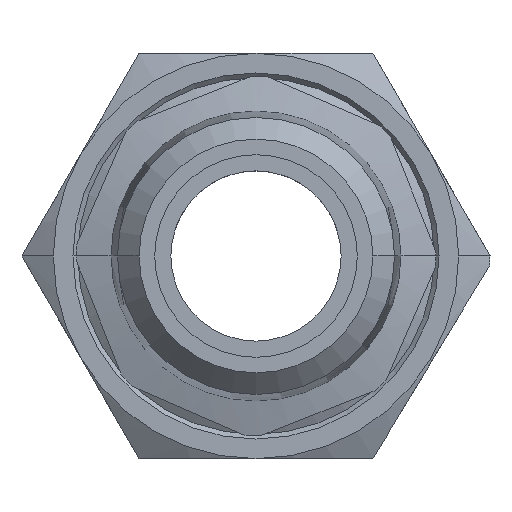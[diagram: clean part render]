
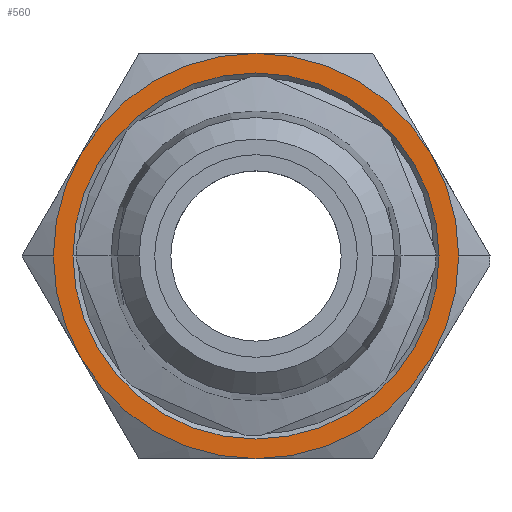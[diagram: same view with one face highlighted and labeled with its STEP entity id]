
A CAD part, left-side view. The second image highlights one B-rep face of the part: STEP entity #560.
In plain terms, the highlighted planar face has unit normal (-1, 0, 0) as drawn and (1, 0, 0) by its records, which use the part's own axes.
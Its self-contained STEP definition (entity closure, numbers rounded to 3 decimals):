
#10=CARTESIAN_POINT('',(221.708,28.002,
0.));
#20=DIRECTION('',(1.,0.,0.));
#30=DIRECTION('',(0.,-1.,0.));
#40=AXIS2_PLACEMENT_3D('',#10,#20,#30);
#50=PLANE('',#40);
#60=CARTESIAN_POINT('',(221.708,13.727,
0.));
#70=DIRECTION('',(-1.,0.,0.));
#80=DIRECTION('',(0.,1.,0.));
#90=AXIS2_PLACEMENT_3D('',#60,#70,#80);
#100=CIRCLE('',#90,13.55);
#110=CARTESIAN_POINT('',(221.708,27.277,
0.));
#120=VERTEX_POINT('',#110);
#130=CARTESIAN_POINT('',(221.708,0.177,
0.));
#140=VERTEX_POINT('',#130);
#150=EDGE_CURVE('',#120,#140,#100,.T.);
#160=ORIENTED_EDGE('',*,*,#150,.T.);
#170=EDGE_CURVE('',#140,#120,#100,.T.);
#180=ORIENTED_EDGE('',*,*,#170,.T.);
#190=EDGE_LOOP('',(#180,#160));
#200=FACE_BOUND('',#190,.T.);
#210=CARTESIAN_POINT('',(221.708,13.727,
0.));
#220=DIRECTION('',(-1.,0.,0.));
#230=DIRECTION('',(0.,1.,0.));
#240=AXIS2_PLACEMENT_3D('',#210,#220,#230);
#250=CIRCLE('',#240,15.);
#260=CARTESIAN_POINT('',(221.708,13.727,-15.));
#270=VERTEX_POINT('',#260);
#280=CARTESIAN_POINT('',(221.708,0.736,
-7.5));
#290=VERTEX_POINT('',#280);
#300=EDGE_CURVE('',#270,#290,#250,.T.);
#310=ORIENTED_EDGE('',*,*,#300,.F.);
#320=CARTESIAN_POINT('',(221.708,-1.273,
0.));
#330=VERTEX_POINT('',#320);
#340=EDGE_CURVE('',#290,#330,#250,.T.);
#350=ORIENTED_EDGE('',*,*,#340,.F.);
#360=CARTESIAN_POINT('',(221.708,0.736,
7.5));
#370=VERTEX_POINT('',#360);
#380=EDGE_CURVE('',#330,#370,#250,.T.);
#390=ORIENTED_EDGE('',*,*,#380,.F.);
#400=CARTESIAN_POINT('',(221.708,13.727,15.));
#410=VERTEX_POINT('',#400);
#420=EDGE_CURVE('',#370,#410,#250,.T.);
#430=ORIENTED_EDGE('',*,*,#420,.F.);
#440=CARTESIAN_POINT('',(221.708,26.717,
7.5));
#450=VERTEX_POINT('',#440);
#460=EDGE_CURVE('',#410,#450,#250,.T.);
#470=ORIENTED_EDGE('',*,*,#460,.F.);
#480=CARTESIAN_POINT('',(221.708,28.727,
0.));
#490=VERTEX_POINT('',#480);
#500=EDGE_CURVE('',#450,#490,#250,.T.);
#510=ORIENTED_EDGE('',*,*,#500,.F.);
#520=EDGE_CURVE('',#490,#270,#250,.T.);
#530=ORIENTED_EDGE('',*,*,#520,.F.);
#540=EDGE_LOOP('',(#530,#510,#470,#430,#390,#350,#310));
#550=FACE_OUTER_BOUND('',#540,.T.);
#560=ADVANCED_FACE('',(#200,#550),#50,.T.);
